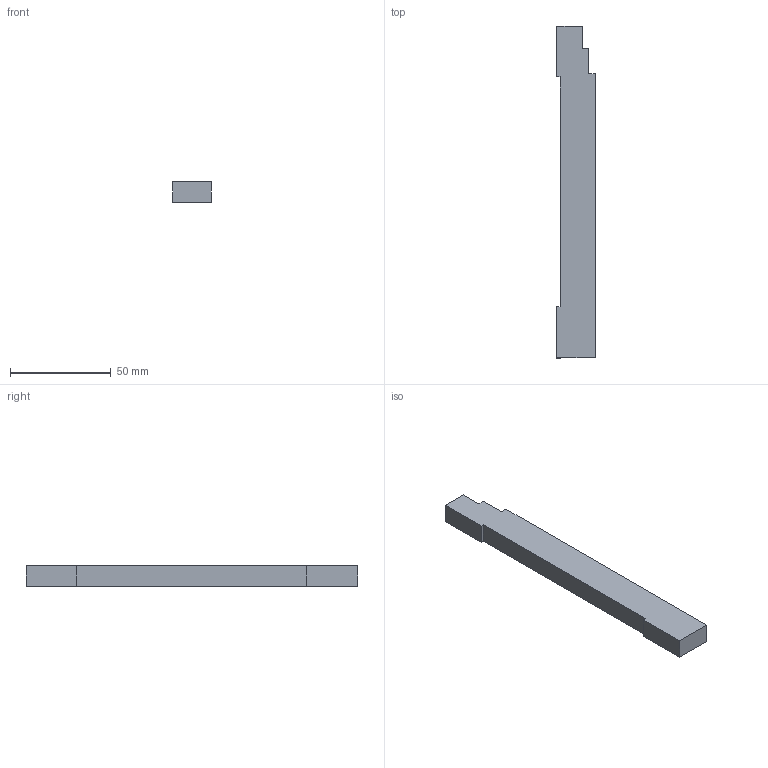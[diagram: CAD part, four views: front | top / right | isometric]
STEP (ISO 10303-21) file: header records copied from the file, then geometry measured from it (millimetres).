
FILE_DESCRIPTION (( 'STEP AP203' ), '1' );
FILE_NAME ('HM9205.STEP', '2024-02-22T13:18:31', ( '' ), ( '' ), 'SwSTEP 2.0', 'SolidWorks 2020', '' );
FILE_SCHEMA (( 'CONFIG_CONTROL_DESIGN' ));
Length unit declared in the file: millimetre
Products named in the file (1): HM9205
Bounding box: 19.05 x 165.03 x 10 mm (x, y, z)
Volume: 28519.8 mm3; surface area: 9417.4 mm2
Topology: 1 solids, 1 shells, 14 faces, 36 edges, 24 vertices
Faces by surface type: plane 14
Entity records: 497 total; most frequent: CARTESIAN_POINT 75, ORIENTED_EDGE 72, DIRECTION 66, EDGE_CURVE 36, LINE 36, VECTOR 36, VERTEX_POINT 24, AXIS2_PLACEMENT_3D 15
